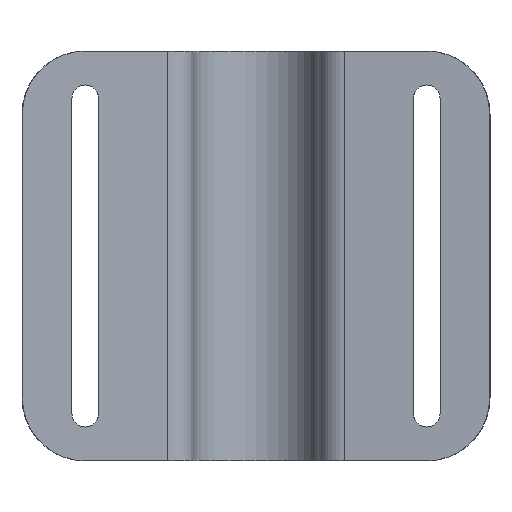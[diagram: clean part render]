
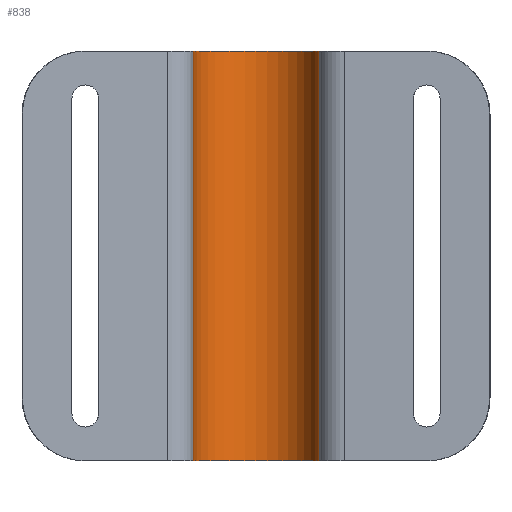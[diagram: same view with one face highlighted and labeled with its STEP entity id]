
A CAD part, front view. The second image highlights one B-rep face of the part: STEP entity #838.
In plain terms, the highlighted cylindrical face has radius 20 mm (diameter 40 mm), a partial arc.
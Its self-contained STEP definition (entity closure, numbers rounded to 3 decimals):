
#38 = EDGE_CURVE ( 'NONE', #1034, #342, #781, .T. ) ;
#82 = DIRECTION ( 'NONE',  ( 0., 0., -1. ) ) ;
#100 = EDGE_CURVE ( 'NONE', #1188, #342, #1100, .T. ) ;
#111 = AXIS2_PLACEMENT_3D ( 'NONE', #707, #247, #894 ) ;
#118 = DIRECTION ( 'NONE',  ( 0., 0., -1. ) ) ;
#159 = CARTESIAN_POINT ( 'NONE',  ( 20., 0., 130. ) ) ;
#180 = VECTOR ( 'NONE', #1174, 1000. ) ;
#229 = VERTEX_POINT ( 'NONE', #372 ) ;
#236 = ORIENTED_EDGE ( 'NONE', *, *, #1052, .F. ) ;
#247 = DIRECTION ( 'NONE',  ( 0., 0., -1. ) ) ;
#313 = CARTESIAN_POINT ( 'NONE',  ( -20., 0., 130. ) ) ;
#342 = VERTEX_POINT ( 'NONE', #847 ) ;
#372 = CARTESIAN_POINT ( 'NONE',  ( -20., 0., 130. ) ) ;
#408 = CARTESIAN_POINT ( 'NONE',  ( -20., 0., 0. ) ) ;
#460 = EDGE_LOOP ( 'NONE', ( #826, #1089, #236, #871 ) ) ;
#469 = CARTESIAN_POINT ( 'NONE',  ( 0., 0., 130. ) ) ;
#496 = DIRECTION ( 'NONE',  ( -1., 0., 0. ) ) ;
#511 = AXIS2_PLACEMENT_3D ( 'NONE', #469, #82, #736 ) ;
#589 = CYLINDRICAL_SURFACE ( 'NONE', #511, 20. ) ;
#594 = AXIS2_PLACEMENT_3D ( 'NONE', #650, #1033, #496 ) ;
#642 = VECTOR ( 'NONE', #118, 1000. ) ;
#650 = CARTESIAN_POINT ( 'NONE',  ( 0., 0., 130. ) ) ;
#655 = CIRCLE ( 'NONE', #594, 20. ) ;
#707 = CARTESIAN_POINT ( 'NONE',  ( 0., 0., 0. ) ) ;
#736 = DIRECTION ( 'NONE',  ( -1., 0., 0. ) ) ;
#781 = CIRCLE ( 'NONE', #111, 20. ) ;
#790 = FACE_OUTER_BOUND ( 'NONE', #460, .T. ) ;
#826 = ORIENTED_EDGE ( 'NONE', *, *, #38, .T. ) ;
#838 = ADVANCED_FACE ( 'NONE', ( #790 ), #589, .F. ) ;
#847 = CARTESIAN_POINT ( 'NONE',  ( 20., 0., 0. ) ) ;
#871 = ORIENTED_EDGE ( 'NONE', *, *, #967, .T. ) ;
#873 = LINE ( 'NONE', #313, #642 ) ;
#894 = DIRECTION ( 'NONE',  ( -1., 0., 0. ) ) ;
#967 = EDGE_CURVE ( 'NONE', #229, #1034, #873, .T. ) ;
#1033 = DIRECTION ( 'NONE',  ( 0., 0., -1. ) ) ;
#1034 = VERTEX_POINT ( 'NONE', #408 ) ;
#1052 = EDGE_CURVE ( 'NONE', #229, #1188, #655, .T. ) ;
#1089 = ORIENTED_EDGE ( 'NONE', *, *, #100, .F. ) ;
#1100 = LINE ( 'NONE', #159, #180 ) ;
#1174 = DIRECTION ( 'NONE',  ( 0., 0., -1. ) ) ;
#1186 = CARTESIAN_POINT ( 'NONE',  ( 20., 0., 130. ) ) ;
#1188 = VERTEX_POINT ( 'NONE', #1186 ) ;
